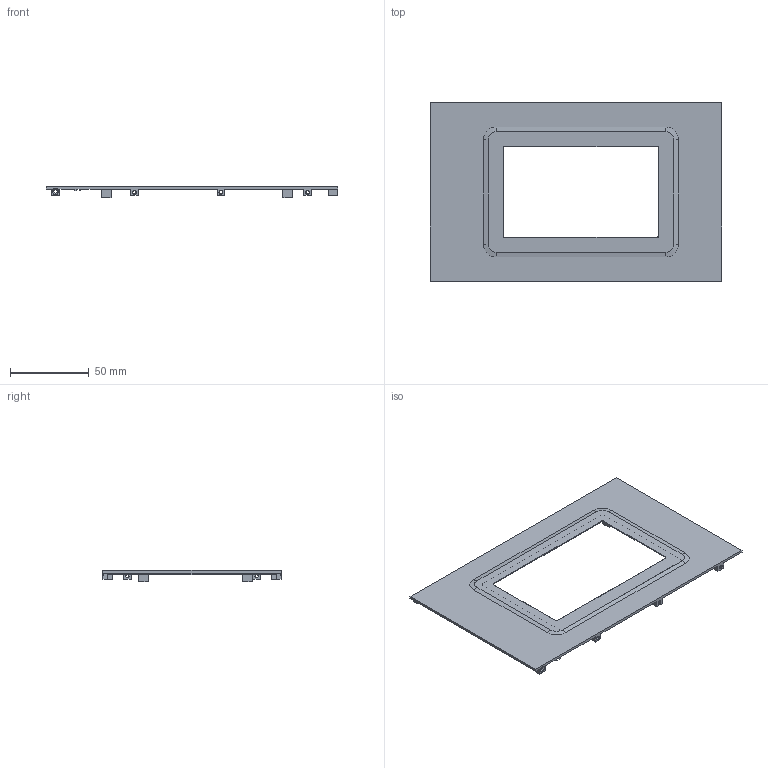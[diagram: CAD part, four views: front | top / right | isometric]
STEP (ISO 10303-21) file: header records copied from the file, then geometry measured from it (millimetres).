
FILE_DESCRIPTION (( 'STEP AP203' ), '1' );
FILE_NAME ('階啣5.STEP', '2026-09-24T08:27:48', ( '' ), ( '' ), 'SwSTEP 2.0', 'SolidWorks 2016', '' );
FILE_SCHEMA (( 'CONFIG_CONTROL_DESIGN' ));
Length unit declared in the file: millimetre
Products named in the file (1): 階啣5
Bounding box: 185 x 113 x 7.6 mm (x, y, z)
Volume: 23386.1 mm3; surface area: 34288.5 mm2
Topology: 1 solids, 1 shells, 168 faces, 440 edges, 280 vertices
Faces by surface type: plane 92, cylinder 40, cone 36
Entity records: 5241 total; most frequent: DIRECTION 894, CARTESIAN_POINT 889, ORIENTED_EDGE 880, EDGE_CURVE 440, VECTOR 324, LINE 324, AXIS2_PLACEMENT_3D 285, VERTEX_POINT 280
